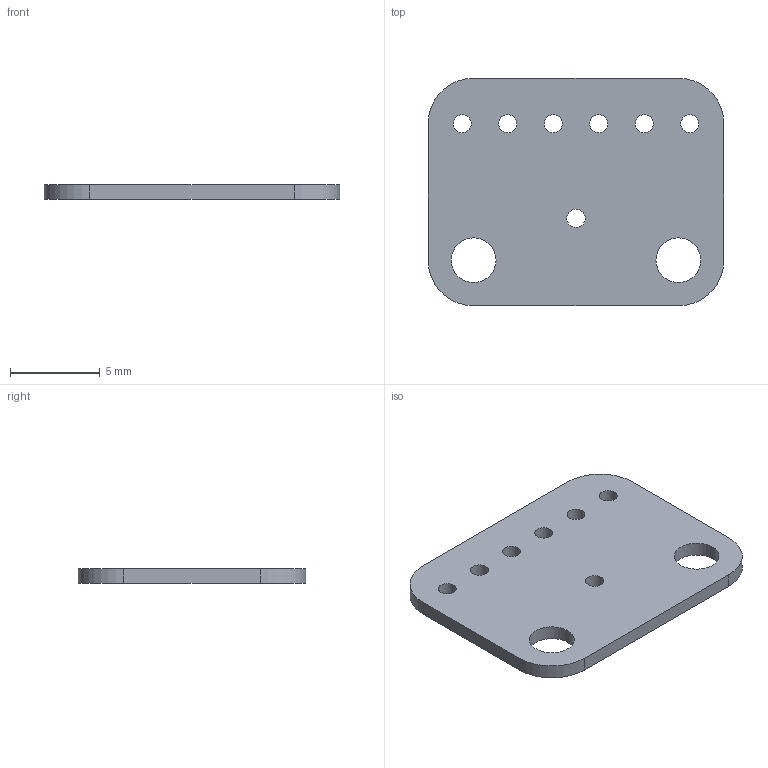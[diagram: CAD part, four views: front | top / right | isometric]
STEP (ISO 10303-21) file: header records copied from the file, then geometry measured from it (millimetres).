
FILE_DESCRIPTION(('Open CASCADE Model'),'2;1');
FILE_NAME('Open CASCADE Shape Model','2026-09-04T20:58:07',('Author'),( 'Open CASCADE'),'Open CASCADE STEP processor 7.7','Open CASCADE 7.7' ,'Unknown');
FILE_SCHEMA(('AUTOMOTIVE_DESIGN { 1 0 10303 214 1 1 1 1 }'));
Length unit declared in the file: millimetre
Products named in the file (1): Open CASCADE STEP translator 7.7 1
Bounding box: 16.51 x 12.7 x 0.8 mm (x, y, z)
Volume: 151 mm3; surface area: 451 mm2
Topology: 1 solids, 1 shells, 19 faces, 51 edges, 34 vertices
Faces by surface type: cylinder 13, plane 6
Full cylindrical faces by diameter (mm): 1 x6, 1.025 x1, 2.5 x2
Entity records: 1332 total; most frequent: CARTESIAN_POINT 231, DIRECTION 215, ORIENTED_EDGE 102, PCURVE 102, DEFINITIONAL_REPRESENTATION 102, LINE 101, VECTOR 101, EDGE_CURVE 51
